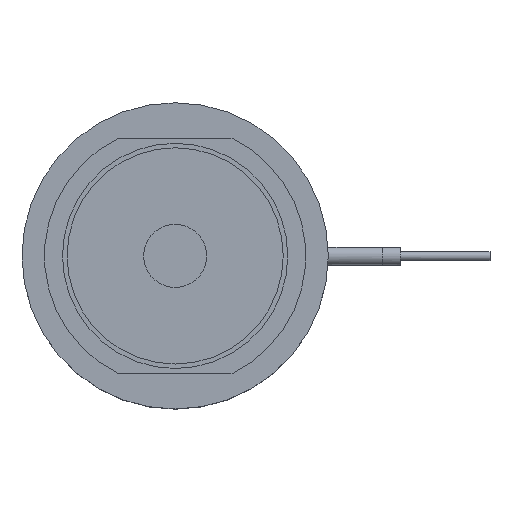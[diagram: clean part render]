
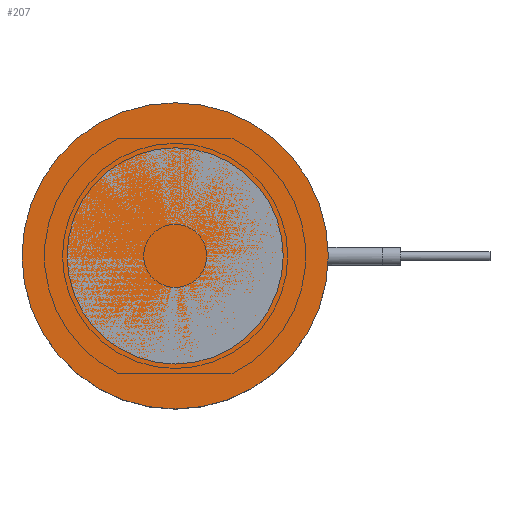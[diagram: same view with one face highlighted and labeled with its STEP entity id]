
A CAD part, top view. The second image highlights one B-rep face of the part: STEP entity #207.
In plain terms, the highlighted planar face has unit normal (0, 0, 1).
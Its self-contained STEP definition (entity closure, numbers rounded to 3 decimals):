
#142=PLANE('',#1189);
#207=ADVANCED_FACE('',(#285),#142,.F.);
#285=FACE_OUTER_BOUND('',#589,.T.);
#418=CIRCLE('',#1188,17.);
#589=EDGE_LOOP('',(#823));
#823=ORIENTED_EDGE('',*,*,#1040,.F.);
#923=VERTEX_POINT('',#2112);
#1040=EDGE_CURVE('',#923,#923,#418,.T.);
#1188=AXIS2_PLACEMENT_3D('',#2111,#1489,#1490);
#1189=AXIS2_PLACEMENT_3D('',#2113,#1491,#1492);
#1489=DIRECTION('',(0.,0.,-1.));
#1490=DIRECTION('',(-1.,0.,0.));
#1491=DIRECTION('',(0.,0.,-1.));
#1492=DIRECTION('',(-1.,0.,0.));
#2111=CARTESIAN_POINT('',(0.,0.,0.));
#2112=CARTESIAN_POINT('',(-17.,0.,0.));
#2113=CARTESIAN_POINT('',(0.,0.,0.));
